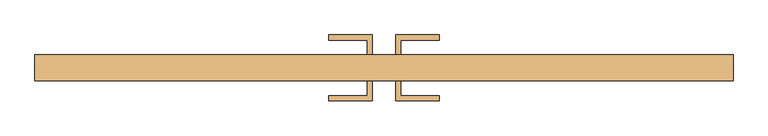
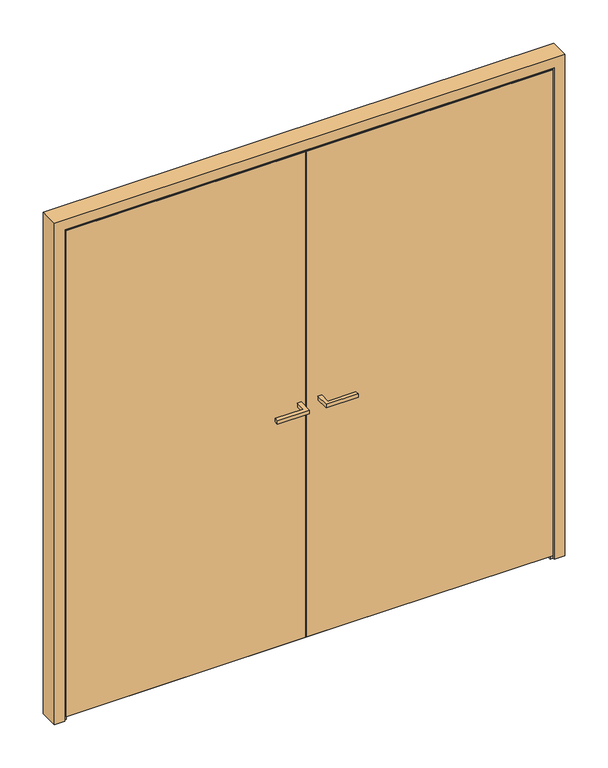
"""IFC4 building model written with IfcOpenShell, lengths in millimetres: door geometry, Reynaers_MasterLine 8_Door_Panel_Inward Opening_Double Vent_Double Sided : Reynaers_MasterLine 8_Door_Panel_Inward Opening_Double Vent_Double Sided."""

import ifcopenshell
import ifcopenshell.guid

model = None  # the IFC model being written
_history = None  # IfcOwnerHistory: only IFC2X3 demands one
_inside = {}  # id of a spatial element -> (the spatial element, [elements in it])
_under = {}  # id of a project, library or spatial element -> (it, [spatial elements below it])
_declared = {}  # id of a project -> (the project, [libraries it declares])
_typed = {}  # id of a type object -> (the type object, [elements of that type])
_made_of = {}  # id of a material, layer set ... -> (it, [elements and type objects made of it])


def new_model(schema):
    """Start an empty IFC model of exactly this schema.

    Asked for "IFC4X3", IfcOpenShell would pick the latest addendum, in which some entities
    have other attributes; the version numbers below select the first issue.
    IFC2X3 requires an IfcOwnerHistory on every rooted entity: one is made here for all.
    """
    global model, _history
    if schema == "IFC4X3":
        model = ifcopenshell.file(schema_version=(4, 3, 0, 0))
    else:
        model = ifcopenshell.file(schema=schema)
    _inside.clear()
    _under.clear()
    _declared.clear()
    _typed.clear()
    _made_of.clear()
    _history = None
    if model.schema == "IFC2X3":
        org = make("IfcOrganization", Name="unknown")
        user = make(
            "IfcPersonAndOrganization",
            ThePerson=make("IfcPerson", FamilyName="unknown"),
            TheOrganization=org,
        )
        app = make(
            "IfcApplication",
            ApplicationDeveloper=org,
            Version="unknown",
            ApplicationFullName="unknown",
            ApplicationIdentifier="unknown",
        )
        _history = make(
            "IfcOwnerHistory",
            OwningUser=user,
            OwningApplication=app,
            ChangeAction="ADDED",
            CreationDate=0,
        )
    return model


def make(cls, **values):
    """One entity of the class cls with the attributes given. An attribute that is None is left unset."""
    return model.create_entity(
        cls, **{name: value for name, value in values.items() if value is not None}
    )


def rooted(cls, **values):
    """An entity with a GlobalId (a new one), such as an element, a storey or a relation."""
    return make(cls, GlobalId=ifcopenshell.guid.new(), OwnerHistory=_history, **values)


def si_unit(unit_type, name, prefix=None):
    """IfcSIUnit, for example si_unit("LENGTHUNIT", "METRE", prefix="MILLI")."""
    return make("IfcSIUnit", UnitType=unit_type, Prefix=prefix, Name=name)


def assignment(units):
    """IfcUnitAssignment: the units of a project."""
    return None if units is None else make("IfcUnitAssignment", Units=units)


def point(xyz):
    """IfcCartesianPoint."""
    return None if xyz is None else make("IfcCartesianPoint", Coordinates=xyz)


def direction(xyz):
    """IfcDirection."""
    return None if xyz is None else make("IfcDirection", DirectionRatios=xyz)


def frame(location, z_axis=None, x_axis=None):
    """IfcAxis2Placement3D, a coordinate frame: its origin and axes. An axis left out is left unset."""
    return make(
        "IfcAxis2Placement3D",
        Location=point(location),
        Axis=direction(z_axis),
        RefDirection=direction(x_axis),
    )


def origin():
    """The frame at (0, 0, 0) with its axes left unset."""
    return frame((0.0, 0.0, 0.0))


def place(relative_to, where):
    """IfcLocalPlacement: puts the frame where relative to a parent placement (None: the world)."""
    return make(
        "IfcLocalPlacement", PlacementRelTo=relative_to, RelativePlacement=where
    )


def context(
    kind, dimensions, precision=None, world=None, true_north=None, identifier=None
):
    """IfcGeometricRepresentationContext, for example the 3D "Model" context."""
    return make(
        "IfcGeometricRepresentationContext",
        ContextIdentifier=identifier,
        ContextType=kind,
        CoordinateSpaceDimension=dimensions,
        Precision=precision,
        WorldCoordinateSystem=world,
        TrueNorth=true_north,
    )


def project(units=None, contexts=None):
    """IfcProject with its units and contexts."""
    return rooted(
        "IfcProject",
        Name="project",
        RepresentationContexts=contexts,
        UnitsInContext=assignment(units),
    )


def spatial(cls, under=None, at=None, **own):
    """A site, building, storey or space (cls), placed at a placement, below another one or the project."""
    s = rooted(cls, ObjectPlacement=at, **own)
    if under is not None:
        _under.setdefault(under.id(), (under, []))[1].append(s)
    return s


def polyline(points):
    """IfcPolyline through the points."""
    return make("IfcPolyline", Points=[point(p) for p in points])


def outline(outer, holes=None, kind="AREA"):
    """IfcArbitraryClosedProfileDef: a profile drawn as a closed curve; with holes, ...WithVoids."""
    if holes is None:
        return make("IfcArbitraryClosedProfileDef", ProfileType=kind, OuterCurve=outer)
    return make(
        "IfcArbitraryProfileDefWithVoids",
        ProfileType=kind,
        OuterCurve=outer,
        InnerCurves=holes,
    )


def extrude(swept, where, along, depth):
    """IfcExtrudedAreaSolid: the profile swept, set in the frame where, extruded along a direction by depth."""
    return make(
        "IfcExtrudedAreaSolid",
        SweptArea=swept,
        Position=where,
        ExtrudedDirection=direction(along),
        Depth=depth,
    )


def faces_of(points, faces, orient=None, outer=None):
    """IfcFace entities. A face is a list of loops; a loop is a list of indices into points, from 0.

    orient and outer hold one flag for each loop. By default every Orientation is true, the
    first loop of a face is its IfcFaceOuterBound and the others are IfcFaceBound.
    """
    made = []
    for i, loops in enumerate(faces):
        bounds = []
        for j, loop in enumerate(loops):
            is_outer = j == 0 if outer is None else outer[i][j]
            bounds.append(
                make(
                    "IfcFaceOuterBound" if is_outer else "IfcFaceBound",
                    Bound=make("IfcPolyLoop", Polygon=[points[k] for k in loop]),
                    Orientation=True if orient is None else orient[i][j],
                )
            )
        made.append(make("IfcFace", Bounds=bounds))
    return made


def faceted_brep(points, faces, orient=None, outer=None, voids=None):
    """IfcFacetedBrep: a solid bounded by flat faces; with voids (closed shells), ...WithVoids."""
    shared = [point(p) for p in points]
    hull = make("IfcClosedShell", CfsFaces=faces_of(shared, faces, orient, outer))
    if voids is None:
        return make("IfcFacetedBrep", Outer=hull)
    return make(
        "IfcFacetedBrepWithVoids",
        Outer=hull,
        Voids=[
            make(cls, CfsFaces=faces_of(shared, fs, o, b)) for cls, fs, o, b in voids
        ],
    )


def shape(context_of_items, identifier, shape_type, items):
    """IfcShapeRepresentation: the items that make up one representation, for example the "Body"."""
    return make(
        "IfcShapeRepresentation",
        ContextOfItems=context_of_items,
        RepresentationIdentifier=identifier,
        RepresentationType=shape_type,
        Items=items,
    )


def source(mapping_origin, context_of_items, identifier, shape_type, items):
    """IfcRepresentationMap: a shape defined once, which mapped items show again and again."""
    return make(
        "IfcRepresentationMap",
        MappingOrigin=mapping_origin,
        MappedRepresentation=shape(context_of_items, identifier, shape_type, items),
    )


def transform(
    local_origin,
    x_axis=None,
    y_axis=None,
    z_axis=None,
    scale=None,
    scale2=None,
    scale3=None,
    uniform=True,
):
    """IfcCartesianTransformationOperator3D, or its non-uniform kind. x_axis, y_axis, z_axis: its Axis1, 2, 3."""
    if uniform:
        return make(
            "IfcCartesianTransformationOperator3D",
            Axis1=direction(x_axis),
            Axis2=direction(y_axis),
            LocalOrigin=point(local_origin),
            Scale=scale,
            Axis3=direction(z_axis),
        )
    return make(
        "IfcCartesianTransformationOperator3DnonUniform",
        Axis1=direction(x_axis),
        Axis2=direction(y_axis),
        LocalOrigin=point(local_origin),
        Scale=scale,
        Axis3=direction(z_axis),
        Scale2=scale2,
        Scale3=scale3,
    )


def mapped(mapping_source, mapping_target):
    """IfcMappedItem: shows the shape of a source again, moved by a transform."""
    return make(
        "IfcMappedItem", MappingSource=mapping_source, MappingTarget=mapping_target
    )


def made_of(thing, what):
    """Note that an element or type object is made of a material, layer set ...; save() writes the relation."""
    if what is not None:
        _made_of.setdefault(what.id(), (what, []))[1].append(thing)
    return thing


def element(
    cls,
    number,
    at=None,
    inside=None,
    cuts=None,
    type_object=None,
    material=None,
    context=None,
    identifier="Body",
    shape_type=None,
    held_by="IfcProductDefinitionShape",
    body=None,
    shapes=None,
    **own,
):
    """One element of the class cls, such as IfcWall. Its Tag is "e" and its number.

    at: its placement. inside: the storey or other place that contains it. cuts: it is an
    opening in that element (IfcRelVoidsElement). A single representation is given by context,
    identifier, shape_type and body (its items); several are given by shapes. held_by: the class
    of the entity that holds the representations. save() writes the other relations.
    """
    e = rooted(cls, Tag="e%d" % number, ObjectPlacement=at, **own)
    if body is not None:
        shapes = [shape(context, identifier, shape_type, body)]
    if shapes is not None:
        e.Representation = make(held_by, Representations=shapes)
    if inside is not None:
        _inside.setdefault(inside.id(), (inside, []))[1].append(e)
    if cuts is not None:
        rooted(
            "IfcRelVoidsElement", RelatingBuildingElement=cuts, RelatedOpeningElement=e
        )
    if type_object is not None:
        _typed.setdefault(type_object.id(), (type_object, []))[1].append(e)
    return made_of(e, material)


def aggregate(whole, parts):
    """IfcRelAggregates: a whole, such as a stair, and the parts it consists of."""
    return rooted("IfcRelAggregates", RelatingObject=whole, RelatedObjects=parts)


def save(model, path):
    """Write the relations noted so far, then the file.

    IfcRelAggregates (storeys below a building ...), IfcRelContainedInSpatialStructure (elements
    in a storey), IfcRelDefinesByType, IfcRelAssociatesMaterial and IfcRelDeclares: one each for
    every whole, place, type object, material and project.
    """
    for whole, parts in _under.values():
        aggregate(whole, parts)
    for where, things in _inside.values():
        rooted(
            "IfcRelContainedInSpatialStructure",
            RelatedElements=things,
            RelatingStructure=where,
        )
    for kind, things in _typed.values():
        rooted("IfcRelDefinesByType", RelatedObjects=things, RelatingType=kind)
    for what, things in _made_of.values():
        rooted("IfcRelAssociatesMaterial", RelatedObjects=things, RelatingMaterial=what)
    for by, libraries in _declared.values():
        rooted("IfcRelDeclares", RelatingContext=by, RelatedDefinitions=libraries)
    model.write(path)


def door_9f1bc122(model_context):
    return source(origin(), model_context, "Body", "SolidModel", [
        extrude(outline(polyline([(33.7, 80.0), (33.7, 137.5), (161.2, 137.5), (161.2, 122.5), (48.7, 122.5), (48.7, 80.0), (33.7, 80.0)])), frame((0.0, 0.0, 1005.0), z_axis=(0.0, 0.0, 1.0), x_axis=(1.0, 0.0, 0.0)), (0.0, 0.0, 1.0), 15.0),
        extrude(outline(polyline([(-33.7, 80.0), (-48.7, 80.0), (-48.7, 122.5), (-161.2, 122.5), (-161.2, 137.5), (-33.7, 137.5), (-33.7, 80.0)])), frame((0.0, 0.0, 1005.0), z_axis=(0.0, 0.0, 1.0), x_axis=(1.0, 0.0, 0.0)), (0.0, 0.0, 1.0), 15.0),
        extrude(outline(polyline([(-33.7, 3.0), (-33.7, -54.5), (-161.2, -54.5), (-161.2, -39.5), (-48.7, -39.5), (-48.7, 3.0), (-33.7, 3.0)])), frame((0.0, 0.0, 1005.0), z_axis=(0.0, 0.0, 1.0), x_axis=(1.0, 0.0, 0.0)), (0.0, 0.0, 1.0), 15.0),
        extrude(outline(polyline([(33.7, 3.0), (48.7, 3.0), (48.7, -39.5), (161.2, -39.5), (161.2, -54.5), (33.7, -54.5), (33.7, 3.0)])), frame((0.0, 0.0, 1005.0), z_axis=(0.0, 0.0, 1.0), x_axis=(1.0, 0.0, 0.0)), (0.0, 0.0, 1.0), 15.0),
        extrude(outline(polyline([(951.5, 39.0164985), (951.5, 19.499681), (-951.5, 19.499681), (-951.5, 39.0164985), (951.5, 39.0164985)])), frame((0.0, 0.0, 5.0), z_axis=(0.0, 0.0, 1.0), x_axis=(1.0, 0.0, 0.0)), (0.0, 0.0, 1.0), 28.0029484),
        extrude(outline(polyline([(951.5, 80.0), (951.5, 76.7), (-951.5, 76.7), (-951.5, 80.0), (951.5, 80.0)])), frame((0.0, 0.0, 15.0), z_axis=(0.0, 0.0, 1.0), x_axis=(1.0, 0.0, 0.0)), (0.0, 0.0, 1.0), 26.0),
        faceted_brep([(-67.5, 77.0, 1994.0), (-67.5, 6.0, 1994.0), (-894.0, 6.0, 1994.0), (-894.0, 77.0, 1994.0), (-16.0, 6.0, 2045.5), (-16.0, 11.8, 2045.5), (-945.5, 11.8, 2045.5), (-945.5, 6.0, 2045.5), (-894.0, 6.0, 95.5), (-894.0, 77.0, 95.5), (-945.5, 11.8, 44.0), (-945.5, 6.0, 44.0), (-67.5, 6.0, 95.5), (-67.5, 77.0, 95.5), (-16.0, 11.8, 44.0), (-16.0, 6.0, 44.0), (-956.5, 11.8, 2056.5), (-956.5, 11.8, 33.0), (-5.0, 11.8, 33.0), (-5.0, 11.8, 2056.5), (-5.0, 71.2001837, 2056.5), (-956.5, 71.2001837, 2056.5), (-16.0, 71.2001837, 2045.5), (-16.0, 77.0, 2045.5), (-945.5, 77.0, 2045.5), (-945.5, 71.2001837, 2045.5), (-956.5, 71.2001837, 33.0), (-945.5, 77.0, 44.0), (-945.5, 71.2001837, 44.0), (-5.0, 71.2001837, 33.0), (-16.0, 77.0, 44.0), (-16.0, 71.2001837, 44.0)], [[[0, 1, 2, 3]], [[4, 5, 6, 7]], [[3, 2, 8, 9]], [[7, 6, 10, 11]], [[9, 8, 12, 13]], [[11, 10, 14, 15]], [[13, 12, 1, 0]], [[7, 11, 15, 4], [1, 12, 8, 2]], [[15, 14, 5, 4]], [[16, 17, 18, 19], [5, 14, 10, 6]], [[19, 20, 21, 16]], [[22, 23, 24, 25]], [[16, 21, 26, 17]], [[25, 24, 27, 28]], [[17, 26, 29, 18]], [[28, 27, 30, 31]], [[18, 29, 20, 19]], [[20, 29, 26, 21], [25, 28, 31, 22]], [[31, 30, 23, 22]], [[23, 30, 27, 24], [3, 9, 13, 0]]]),
        faceted_brep([(-951.5, 76.2001836, 0.0), (-966.5, 76.2001836, 0.0), (-966.5, 11.8, 0.0), (-977.5, 11.8, 0.0), (-977.5, 3.0, 0.0), (-1020.0, 3.0, 0.0), (-1020.0, 80.0, 0.0), (-951.5, 80.0, 0.0), (-951.5, 76.2001836, 2051.5), (951.5, 76.2001836, 2051.5), (951.5, 76.2001836, 0.0), (966.5, 76.2001836, 0.0), (966.5, 76.2001836, 2066.5), (-966.5, 76.2001836, 2066.5), (-1020.0, 3.0, 2120.0), (-1020.0, 80.0, 2120.0), (1020.0, 80.0, 2120.0), (1020.0, 80.0, 0.0), (951.5, 80.0, 0.0), (951.5, 80.0, 2051.5), (-951.5, 80.0, 2051.5), (1020.0, 3.0, 2120.0), (1020.0, 3.0, 0.0), (977.5, 3.0, 0.0), (977.5, 11.8, 0.0), (966.5, 11.8, 0.0), (-966.5, 11.8, 2066.5), (-977.5, 3.0, 2077.5), (977.5, 3.0, 2077.5), (966.5, 11.8, 2066.5), (977.5, 11.8, 2077.5), (-977.5, 11.8, 2077.5)], [[[0, 1, 2, 3, 4, 5, 6, 7]], [[1, 0, 8, 9, 10, 11, 12, 13]], [[6, 5, 14, 15]], [[7, 6, 15, 16, 17, 18, 19, 20]], [[0, 7, 20, 8]], [[15, 14, 21, 16]], [[8, 20, 19, 9]], [[10, 18, 17, 22, 23, 24, 25, 11]], [[16, 21, 22, 17]], [[9, 19, 18, 10]], [[2, 1, 13, 26]], [[5, 4, 27, 28, 23, 22, 21, 14]], [[26, 13, 12, 29]], [[29, 12, 11, 25]], [[3, 2, 26, 29, 25, 24, 30, 31]], [[4, 3, 31, 27]], [[27, 31, 30, 28]], [[28, 30, 24, 23]]]),
        faceted_brep([(67.5, 6.0, 1994.0), (67.5, 77.0, 1994.0), (894.0, 77.0, 1994.0), (894.0, 6.0, 1994.0), (16.0, 11.8, 2045.5), (16.0, 6.0, 2045.5), (945.5, 6.0, 2045.5), (945.5, 11.8, 2045.5), (894.0, 77.0, 95.5), (894.0, 6.0, 95.5), (945.5, 6.0, 44.0), (945.5, 11.8, 44.0), (67.5, 77.0, 95.5), (67.5, 6.0, 95.5), (16.0, 6.0, 44.0), (16.0, 11.8, 44.0), (5.0, 11.8, 2056.5), (5.0, 11.8, 33.0), (956.5, 11.8, 33.0), (956.5, 11.8, 2056.5), (5.0, 71.2001837, 2056.5), (956.5, 71.2001837, 2056.5), (16.0, 77.0, 2045.5), (16.0, 71.2001837, 2045.5), (945.5, 71.2001837, 2045.5), (945.5, 77.0, 2045.5), (956.5, 71.2001837, 33.0), (945.5, 71.2001837, 44.0), (945.5, 77.0, 44.0), (5.0, 71.2001837, 33.0), (16.0, 71.2001837, 44.0), (16.0, 77.0, 44.0)], [[[0, 1, 2, 3]], [[4, 5, 6, 7]], [[3, 2, 8, 9]], [[7, 6, 10, 11]], [[9, 8, 12, 13]], [[11, 10, 14, 15]], [[13, 12, 1, 0]], [[5, 14, 10, 6], [3, 9, 13, 0]], [[15, 14, 5, 4]], [[16, 17, 18, 19], [7, 11, 15, 4]], [[20, 16, 19, 21]], [[22, 23, 24, 25]], [[21, 19, 18, 26]], [[25, 24, 27, 28]], [[26, 18, 17, 29]], [[28, 27, 30, 31]], [[29, 17, 16, 20]], [[21, 26, 29, 20], [23, 30, 27, 24]], [[31, 30, 23, 22]], [[25, 28, 31, 22], [1, 12, 8, 2]]]),
        extrude(outline(polyline([(72.5, 6.0), (72.5, 77.0), (889.0, 77.0), (889.0, 6.0), (72.5, 6.0)])), frame((0.0, 0.0, 100.5), z_axis=(0.0, 0.0, 1.0), x_axis=(1.0, 0.0, 0.0)), (0.0, 0.0, 1.0), 1888.5),
        extrude(outline(polyline([(16.0, 80.0), (945.5, 80.0), (945.5, 77.0), (16.0, 77.0), (16.0, 80.0)])), frame((0.0, 0.0, 41.0), z_axis=(0.0, 0.0, 1.0), x_axis=(1.0, 0.0, 0.0)), (0.0, 0.0, 1.0), 2004.5),
        extrude(outline(polyline([(-10.0, 6.0), (971.5, 6.0), (971.5, 3.0), (-10.0, 3.0), (-10.0, 6.0)])), frame((0.0, 0.0, 18.0), z_axis=(0.0, 0.0, 1.0), x_axis=(1.0, 0.0, 0.0)), (0.0, 0.0, 1.0), 2053.5),
        extrude(outline(polyline([(10.0, 80.0), (10.0, 77.0), (-945.5, 77.0), (-945.5, 80.0), (10.0, 80.0)])), frame((0.0, 0.0, 41.0), z_axis=(0.0, 0.0, 1.0), x_axis=(1.0, 0.0, 0.0)), (0.0, 0.0, 1.0), 2004.5),
        extrude(outline(polyline([(-16.0, 6.0), (-16.0, 3.0), (-971.5, 3.0), (-971.5, 6.0), (-16.0, 6.0)])), frame((0.0, 0.0, 18.0), z_axis=(0.0, 0.0, 1.0), x_axis=(1.0, 0.0, 0.0)), (0.0, 0.0, 1.0), 2053.5),
        extrude(outline(polyline([(-72.5, 6.0), (-889.0, 6.0), (-889.0, 77.0), (-72.5, 77.0), (-72.5, 6.0)])), frame((0.0, 0.0, 100.5), z_axis=(0.0, 0.0, 1.0), x_axis=(1.0, 0.0, 0.0)), (0.0, 0.0, 1.0), 1888.5),
    ])


if __name__ == "__main__":
    model = new_model("IFC4")
    model_context = context("Model", 3, world=origin())
    ifc_project = project(units=[si_unit("LENGTHUNIT", "METRE", prefix="MILLI")], contexts=[model_context])
    site = spatial("IfcSite", under=ifc_project)
    building = spatial("IfcBuilding", under=site)
    placement = place(None, origin())
    door_shape = door_9f1bc122(model_context)
    element("IfcDoor", 1, ObjectType="Reynaers_MasterLine 8_Door_Panel_Inward Opening_Double Vent_Double Sided : Reynaers_MasterLine 8_Door_Panel_Inward Opening_Double Vent_Double Sided", at=placement, inside=building, context=model_context, shape_type="MappedRepresentation", body=[
        mapped(door_shape, transform((0.0, 0.0, 0.0), x_axis=(1.0, 0.0, 0.0), y_axis=(0.0, 1.0, 0.0), z_axis=(0.0, 0.0, 1.0))),
    ])
    save(model, "model.ifc")
